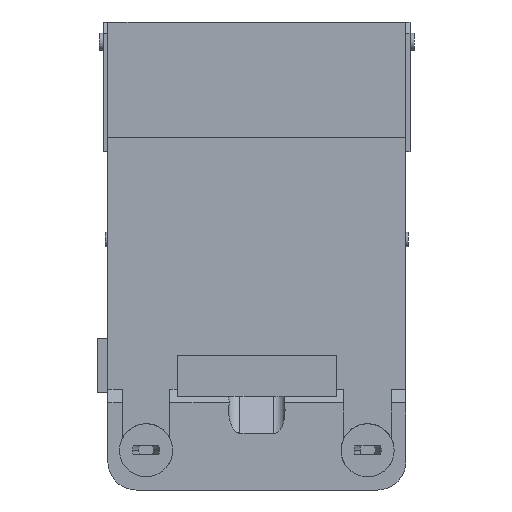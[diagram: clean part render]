
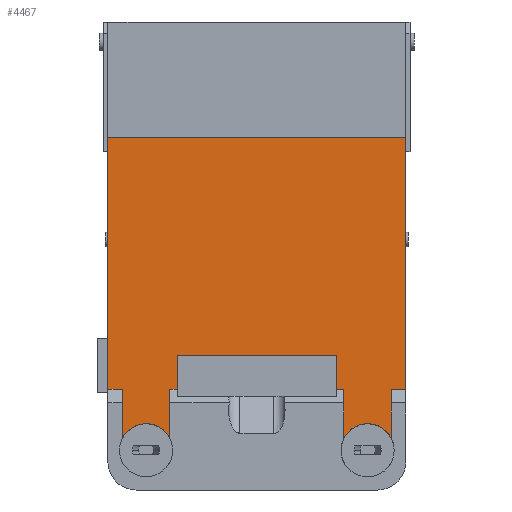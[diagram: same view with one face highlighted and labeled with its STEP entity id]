
A CAD part, left-side view. The second image highlights one B-rep face of the part: STEP entity #4467.
In plain terms, the highlighted planar face has unit normal (-1, 0, 0).
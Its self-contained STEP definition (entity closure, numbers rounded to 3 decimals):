
#3651=FACE_OUTER_BOUND('',#6042,.T.);
#4467=ADVANCED_FACE('',(#3651),#5101,.T.);
#5101=PLANE('',#22017);
#6042=EDGE_LOOP('',(#9875,#9876,#9877,#9878,#9879,#9880,#9881,#9882,#9883,
#9884,#9885,#9886,#9887,#9888,#9889,#9890,#9891,#9892));
#9875=ORIENTED_EDGE('',*,*,#14142,.T.);
#9876=ORIENTED_EDGE('',*,*,#14373,.T.);
#9877=ORIENTED_EDGE('',*,*,#14351,.T.);
#9878=ORIENTED_EDGE('',*,*,#14378,.T.);
#9879=ORIENTED_EDGE('',*,*,#14380,.T.);
#9880=ORIENTED_EDGE('',*,*,#14381,.T.);
#9881=ORIENTED_EDGE('',*,*,#14368,.F.);
#9882=ORIENTED_EDGE('',*,*,#14392,.T.);
#9883=ORIENTED_EDGE('',*,*,#14153,.T.);
#9884=ORIENTED_EDGE('',*,*,#14393,.T.);
#9885=ORIENTED_EDGE('',*,*,#14388,.T.);
#9886=ORIENTED_EDGE('',*,*,#14342,.T.);
#9887=ORIENTED_EDGE('',*,*,#14394,.F.);
#9888=ORIENTED_EDGE('',*,*,#14395,.T.);
#9889=ORIENTED_EDGE('',*,*,#14331,.T.);
#9890=ORIENTED_EDGE('',*,*,#14344,.F.);
#9891=ORIENTED_EDGE('',*,*,#14391,.T.);
#9892=ORIENTED_EDGE('',*,*,#14396,.T.);
#12103=VERTEX_POINT('',#32308);
#12105=VERTEX_POINT('',#32311);
#12113=VERTEX_POINT('',#32333);
#12114=VERTEX_POINT('',#32335);
#12190=VERTEX_POINT('',#32707);
#12193=VERTEX_POINT('',#32713);
#12197=VERTEX_POINT('',#32730);
#12200=VERTEX_POINT('',#32735);
#12202=VERTEX_POINT('',#32740);
#12203=VERTEX_POINT('',#32745);
#12208=VERTEX_POINT('',#32754);
#12220=VERTEX_POINT('',#32789);
#12221=VERTEX_POINT('',#32791);
#12225=VERTEX_POINT('',#32807);
#12226=VERTEX_POINT('',#32811);
#12230=VERTEX_POINT('',#32827);
#12231=VERTEX_POINT('',#32831);
#12232=VERTEX_POINT('',#32837);
#14142=EDGE_CURVE('',#12105,#12103,#17601,.T.);
#14153=EDGE_CURVE('',#12114,#12113,#17611,.T.);
#14331=EDGE_CURVE('',#12190,#12193,#17752,.T.);
#14342=EDGE_CURVE('',#12197,#12200,#17761,.T.);
#14344=EDGE_CURVE('',#12202,#12193,#17763,.T.);
#14351=EDGE_CURVE('',#12203,#12208,#17769,.T.);
#14368=EDGE_CURVE('',#12220,#12221,#17781,.T.);
#14373=EDGE_CURVE('',#12103,#12203,#17786,.T.);
#14378=EDGE_CURVE('',#12208,#12225,#17791,.T.);
#14380=EDGE_CURVE('',#12225,#12226,#17793,.T.);
#14381=EDGE_CURVE('',#12226,#12221,#17794,.T.);
#14388=EDGE_CURVE('',#12230,#12197,#17799,.T.);
#14391=EDGE_CURVE('',#12202,#12231,#17802,.T.);
#14392=EDGE_CURVE('',#12220,#12114,#17803,.T.);
#14393=EDGE_CURVE('',#12113,#12230,#15279,.T.);
#14394=EDGE_CURVE('',#12232,#12200,#17804,.T.);
#14395=EDGE_CURVE('',#12232,#12190,#17805,.T.);
#14396=EDGE_CURVE('',#12231,#12105,#15280,.T.);
#15279=CIRCLE('',#22015,2.35);
#15280=CIRCLE('',#22016,2.35);
#17601=LINE('',#32310,#19562);
#17611=LINE('',#32334,#19572);
#17752=LINE('',#32714,#19713);
#17761=LINE('',#32736,#19722);
#17763=LINE('',#32741,#19724);
#17769=LINE('',#32755,#19730);
#17781=LINE('',#32790,#19742);
#17786=LINE('',#32799,#19747);
#17791=LINE('',#32808,#19752);
#17793=LINE('',#32812,#19754);
#17794=LINE('',#32814,#19755);
#17799=LINE('',#32826,#19760);
#17802=LINE('',#32832,#19763);
#17803=LINE('',#32834,#19764);
#17804=LINE('',#32836,#19765);
#17805=LINE('',#32838,#19766);
#19562=VECTOR('',#25416,1.);
#19572=VECTOR('',#25426,1.);
#19713=VECTOR('',#25845,1.);
#19722=VECTOR('',#25866,1.);
#19724=VECTOR('',#25870,1.);
#19730=VECTOR('',#25880,1.);
#19742=VECTOR('',#25914,1.);
#19747=VECTOR('',#25923,1.);
#19752=VECTOR('',#25930,1.);
#19754=VECTOR('',#25934,1.);
#19755=VECTOR('',#25937,1.);
#19760=VECTOR('',#25950,1.);
#19763=VECTOR('',#25955,1.);
#19764=VECTOR('',#25958,1.);
#19765=VECTOR('',#25961,1.);
#19766=VECTOR('',#25962,1.);
#22015=AXIS2_PLACEMENT_3D('',#32835,#25959,#25960);
#22016=AXIS2_PLACEMENT_3D('',#32839,#25963,#25964);
#22017=AXIS2_PLACEMENT_3D('',#32840,#25965,#25966);
#25416=DIRECTION('',(0.,-1.,0.));
#25426=DIRECTION('',(0.,-1.,0.));
#25845=DIRECTION('',(0.,0.,-1.));
#25866=DIRECTION('',(0.,-1.,0.));
#25870=DIRECTION('',(0.,1.,0.));
#25880=DIRECTION('',(0.,-1.,0.));
#25914=DIRECTION('',(0.,1.,0.));
#25923=DIRECTION('',(0.,0.,1.));
#25930=DIRECTION('',(0.,0.,1.));
#25934=DIRECTION('',(0.,-1.,0.));
#25937=DIRECTION('',(0.,0.,-1.));
#25950=DIRECTION('',(0.,0.,1.));
#25955=DIRECTION('',(0.,0.,-1.));
#25958=DIRECTION('',(0.,0.,-1.));
#25959=DIRECTION('',(1.,0.,0.));
#25960=DIRECTION('',(0.,-1.,0.));
#25961=DIRECTION('',(0.,0.,-1.));
#25962=DIRECTION('',(0.,1.,0.));
#25963=DIRECTION('',(1.,0.,0.));
#25964=DIRECTION('',(0.,-1.,0.));
#25965=DIRECTION('',(-1.,0.,0.));
#25966=DIRECTION('',(0.,-1.,0.));
#32308=CARTESIAN_POINT('',(-5.76,7.7,-7.1));
#32310=CARTESIAN_POINT('',(-5.76,14.593,-7.1));
#32311=CARTESIAN_POINT('',(-5.76,7.842,-7.1));
#32333=CARTESIAN_POINT('',(-5.76,-7.842,-7.1));
#32334=CARTESIAN_POINT('',(-5.76,-7.1,-7.1));
#32335=CARTESIAN_POINT('',(-5.76,-7.7,-7.1));
#32707=CARTESIAN_POINT('',(-5.76,13.185,19.31));
#32713=CARTESIAN_POINT('',(-5.76,13.185,-3.01));
#32714=CARTESIAN_POINT('',(-5.76,13.185,-7.696));
#32730=CARTESIAN_POINT('',(-5.76,-11.9,-3.01));
#32735=CARTESIAN_POINT('',(-5.76,-13.185,-3.01));
#32736=CARTESIAN_POINT('',(-5.76,13.175,-3.01));
#32740=CARTESIAN_POINT('',(-5.76,11.9,-3.01));
#32741=CARTESIAN_POINT('',(-5.76,14.593,-3.01));
#32745=CARTESIAN_POINT('',(-5.76,7.7,-3.01));
#32754=CARTESIAN_POINT('',(-5.76,7.05,-3.01));
#32755=CARTESIAN_POINT('',(-5.76,13.175,-3.01));
#32789=CARTESIAN_POINT('',(-5.76,-7.7,-3.01));
#32790=CARTESIAN_POINT('',(-5.76,14.593,-3.01));
#32791=CARTESIAN_POINT('',(-5.76,-7.05,-3.01));
#32799=CARTESIAN_POINT('',(-5.76,7.7,-7.696));
#32807=CARTESIAN_POINT('',(-5.76,7.05,0.));
#32808=CARTESIAN_POINT('',(-5.76,7.05,-3.6));
#32811=CARTESIAN_POINT('',(-5.76,-7.05,0.));
#32812=CARTESIAN_POINT('',(-5.76,7.05,0.));
#32814=CARTESIAN_POINT('',(-5.76,-7.05,0.));
#32826=CARTESIAN_POINT('',(-5.76,-11.9,-7.696));
#32827=CARTESIAN_POINT('',(-5.76,-11.9,-7.345));
#32831=CARTESIAN_POINT('',(-5.76,11.9,-7.345));
#32832=CARTESIAN_POINT('',(-5.76,11.9,-7.696));
#32834=CARTESIAN_POINT('',(-5.76,-7.7,-7.696));
#32835=CARTESIAN_POINT('',(-5.76,-9.8,-8.4));
#32836=CARTESIAN_POINT('',(-5.76,-13.185,-9.5));
#32837=CARTESIAN_POINT('',(-5.76,-13.185,19.31));
#32838=CARTESIAN_POINT('',(-5.76,14.493,19.31));
#32839=CARTESIAN_POINT('',(-5.76,9.8,-8.4));
#32840=CARTESIAN_POINT('',(-5.76,14.593,-7.696));
